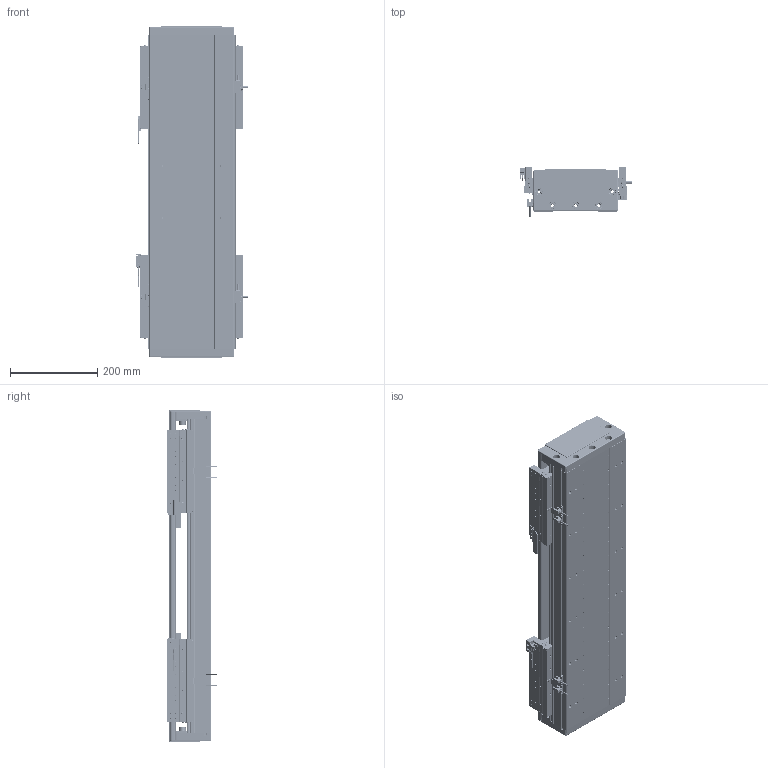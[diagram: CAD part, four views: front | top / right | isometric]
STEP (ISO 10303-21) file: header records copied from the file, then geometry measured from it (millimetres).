
FILE_DESCRIPTION (( 'STEP AP203' ), '1' );
FILE_NAME ('DA-C195-2-C2-T260-C010-0.2 眻盄萇儂.STEP', '2025-08-14T01:46:33', ( '' ), ( '' ), 'SwSTEP 2.0', 'SolidWorks 2019', '' );
FILE_SCHEMA (( 'CONFIG_CONTROL_DESIGN' ));
Length unit declared in the file: millimetre
Products named in the file (16): MS200 棠掑喜S315-T240; DKW-GYP-ZJ-00 笢潔嫖萇覜茼え; IU-CU195-L-00 菁釱(L720); DA-C195-2-C2-T260-C010-0.2 眻盄萇儂; LMT黍杅芛; 66156-0001-003-00 裔啣; DKW168-HXJ-ZJ-00 笢潔滅袉砎蝶; DA195-DG-H-00  端盖（压铸镂空版）; DA95-HXJ-00 遣喳砎蝶; IU-CU195-L 菁釱絳寢; DKW-KGZ-ZJ-00 中间光电开关支架; 66156-0001-005-00 光电感应片(默认); CU195-C2賑輸-俋楷; PM-Y65嫖萇羲壽郪璃; 葩璃 DA95-GT-T-00; PM-T45ㄗ侂狟ㄘ
Assembly tree (28 placements, depth 3):
  DA-C195-2-C2-T260-C010-0.2 眻盄萇儂
    IU-CU195-L 菁釱絳寢
      IU-CU195-L-00 菁釱(L720)
      葩璃 DA95-GT-T-00  x4
    LMT黍杅芛  x2
    MS200 棠掑喜S315-T240
    PM-T45ㄗ侂狟ㄘ  x4
    66156-0001-005-00 光电感应片(默认)  x2
    DA195-DG-H-00  端盖（压铸镂空版）  x2
    DA95-HXJ-00 遣喳砎蝶  x4
    PM-Y65嫖萇羲壽郪璃
    66156-0001-003-00 裔啣
    DKW168-HXJ-ZJ-00 笢潔滅袉砎蝶
    DKW-GYP-ZJ-00 笢潔嫖萇覜茼え
    DKW-KGZ-ZJ-00 中间光电开关支架
    CU195-C2賑輸-俋楷  x2
Bounding box: 258.2 x 115.6 x 760 mm (x, y, z)
Volume: 7073707.7 mm3; surface area: 1928005.3 mm2
Topology: 106 solids, 242 shells, 7686 faces, 19032 edges, 11523 vertices
Faces by surface type: cylinder 3018, plane 2852, cone 946, bspline 718, torus 80, sphere 72
Entity records: 145959 total; most frequent: CARTESIAN_POINT 43652, ORIENTED_EDGE 21066, DIRECTION 20482, EDGE_CURVE 10533, AXIS2_PLACEMENT_3D 7451, VERTEX_POINT 6638, LINE 5580, VECTOR 5580
